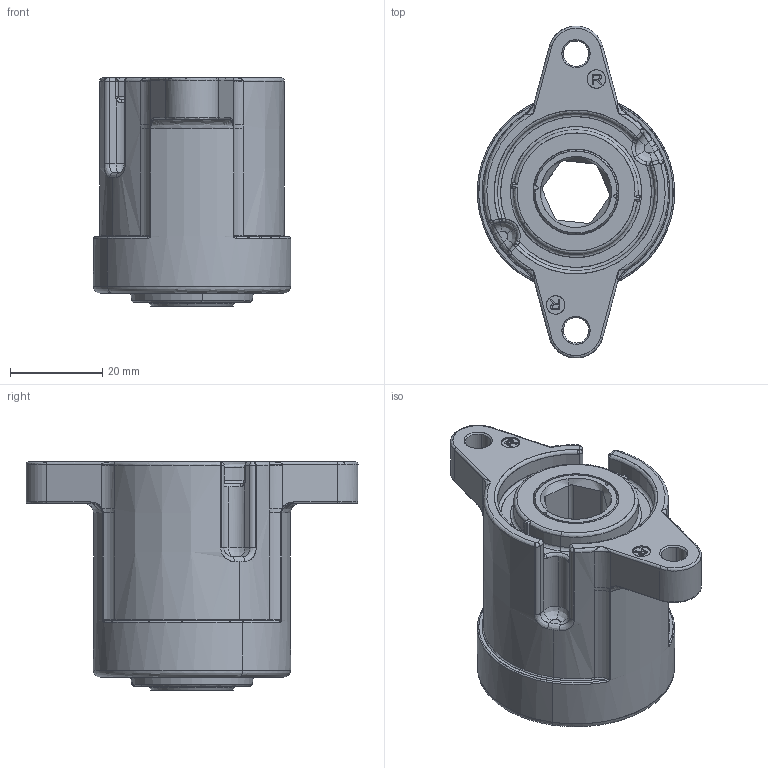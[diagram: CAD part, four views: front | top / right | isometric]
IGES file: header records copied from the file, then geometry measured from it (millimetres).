
Start section: SolidWorks IGES file using analytic representation for surfaces
Global section: file name: T:\共有\電子カタログ\180531 カタログデータ\FYN-X2-R254_3D_MODEL.IGS; native system: SolidWorks 2018; preprocessor: SolidWorks 2018; author: flgijutsu; date: 180601.210754; units: millimetre
Bounding box: 42.79 x 72 x 49.5 mm (x, y, z)
Surface area: 14014.3 mm2 (no closed solid volume)
Topology: 0 solids, 0 shells, 337 faces, 3262 edges, 3252 vertices
Faces by surface type: bspline 209, revolution 128
